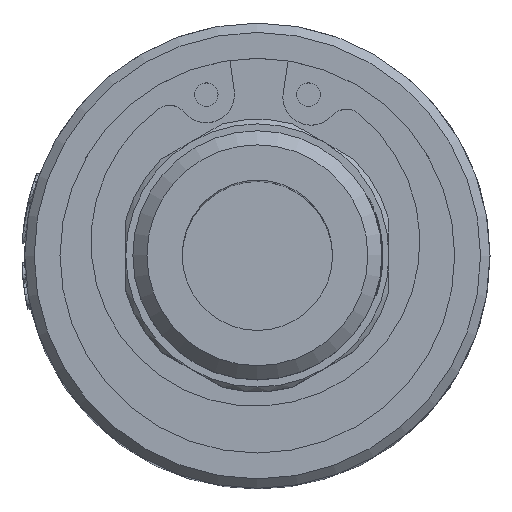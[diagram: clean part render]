
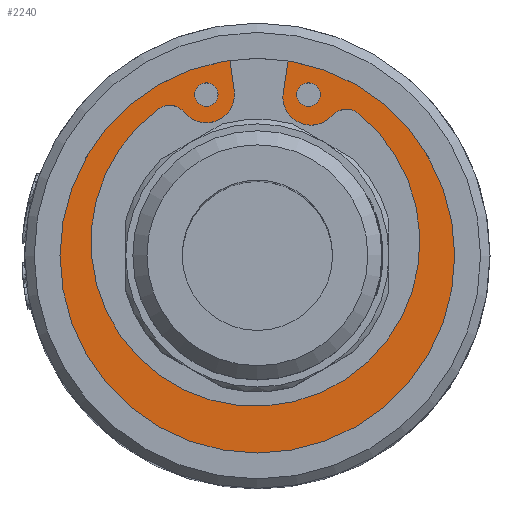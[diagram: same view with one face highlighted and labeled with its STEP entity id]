
A CAD part, top view. The second image highlights one B-rep face of the part: STEP entity #2240.
In plain terms, the highlighted planar face has unit normal (0, 0, 1).
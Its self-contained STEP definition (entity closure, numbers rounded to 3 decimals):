
#270=FACE_BOUND('',#6440,.T.);
#271=FACE_BOUND('',#6441,.T.);
#272=FACE_BOUND('',#6442,.T.);
#509=CIRCLE('',#22693,22.25);
#550=CIRCLE('',#22797,17.5);
#551=CIRCLE('',#22799,1.25);
#552=CIRCLE('',#22800,1.25);
#553=CIRCLE('',#22801,1.);
#554=CIRCLE('',#22802,3.);
#555=CIRCLE('',#22803,2.);
#556=CIRCLE('',#22804,2.);
#557=CIRCLE('',#22805,3.);
#558=CIRCLE('',#22806,1.);
#909=PLANE('',#22807);
#1262=LINE('',#44111,#4072);
#1263=LINE('',#44120,#4073);
#2240=ADVANCED_FACE('',(#270,#271,#272),#909,.T.);
#4072=VECTOR('',#24960,1.);
#4073=VECTOR('',#24969,1.);
#6440=EDGE_LOOP('',(#11550));
#6441=EDGE_LOOP('',(#11551));
#6442=EDGE_LOOP('',(#11552,#11553,#11554,#11555,#11556,#11557,#11558,#11559,
#11560,#11561));
#11550=ORIENTED_EDGE('',*,*,#18204,.F.);
#11551=ORIENTED_EDGE('',*,*,#18205,.F.);
#11552=ORIENTED_EDGE('',*,*,#18009,.F.);
#11553=ORIENTED_EDGE('',*,*,#18206,.T.);
#11554=ORIENTED_EDGE('',*,*,#18207,.T.);
#11555=ORIENTED_EDGE('',*,*,#18208,.T.);
#11556=ORIENTED_EDGE('',*,*,#18209,.T.);
#11557=ORIENTED_EDGE('',*,*,#18201,.F.);
#11558=ORIENTED_EDGE('',*,*,#18210,.T.);
#11559=ORIENTED_EDGE('',*,*,#18211,.T.);
#11560=ORIENTED_EDGE('',*,*,#18212,.F.);
#11561=ORIENTED_EDGE('',*,*,#18213,.T.);
#14985=VERTEX_POINT('',#42799);
#14986=VERTEX_POINT('',#42801);
#15113=VERTEX_POINT('',#44100);
#15114=VERTEX_POINT('',#44101);
#15115=VERTEX_POINT('',#44106);
#15116=VERTEX_POINT('',#44108);
#15117=VERTEX_POINT('',#44110);
#15118=VERTEX_POINT('',#44112);
#15119=VERTEX_POINT('',#44114);
#15120=VERTEX_POINT('',#44117);
#15121=VERTEX_POINT('',#44119);
#15122=VERTEX_POINT('',#44121);
#18009=EDGE_CURVE('',#14985,#14986,#509,.T.);
#18201=EDGE_CURVE('',#15113,#15114,#550,.T.);
#18204=EDGE_CURVE('',#15115,#15115,#551,.T.);
#18205=EDGE_CURVE('',#15116,#15116,#552,.T.);
#18206=EDGE_CURVE('',#14985,#15117,#553,.T.);
#18207=EDGE_CURVE('',#15117,#15118,#1262,.T.);
#18208=EDGE_CURVE('',#15118,#15119,#554,.T.);
#18209=EDGE_CURVE('',#15119,#15114,#555,.T.);
#18210=EDGE_CURVE('',#15113,#15120,#556,.T.);
#18211=EDGE_CURVE('',#15120,#15121,#557,.T.);
#18212=EDGE_CURVE('',#15122,#15121,#1263,.T.);
#18213=EDGE_CURVE('',#15122,#14986,#558,.T.);
#22693=AXIS2_PLACEMENT_3D('',#42800,#24680,#24681);
#22797=AXIS2_PLACEMENT_3D('',#44099,#24948,#24949);
#22799=AXIS2_PLACEMENT_3D('',#44105,#24954,#24955);
#22800=AXIS2_PLACEMENT_3D('',#44107,#24956,#24957);
#22801=AXIS2_PLACEMENT_3D('',#44109,#24958,#24959);
#22802=AXIS2_PLACEMENT_3D('',#44113,#24961,#24962);
#22803=AXIS2_PLACEMENT_3D('',#44115,#24963,#24964);
#22804=AXIS2_PLACEMENT_3D('',#44116,#24965,#24966);
#22805=AXIS2_PLACEMENT_3D('',#44118,#24967,#24968);
#22806=AXIS2_PLACEMENT_3D('',#44122,#24970,#24971);
#22807=AXIS2_PLACEMENT_3D('',#44123,#24972,#24973);
#24680=DIRECTION('',(0.,0.,-1.));
#24681=DIRECTION('',(1.,0.,0.));
#24948=DIRECTION('',(0.,0.,1.));
#24949=DIRECTION('',(1.,0.,0.));
#24954=DIRECTION('',(0.,0.,1.));
#24955=DIRECTION('',(1.,0.,0.));
#24956=DIRECTION('',(0.,0.,1.));
#24957=DIRECTION('',(1.,0.,0.));
#24958=DIRECTION('',(0.,0.,1.));
#24959=DIRECTION('',(1.,0.,0.));
#24960=DIRECTION('',(-0.156,-0.988,0.));
#24961=DIRECTION('',(0.,0.,1.));
#24962=DIRECTION('',(1.,0.,0.));
#24963=DIRECTION('',(0.,0.,-1.));
#24964=DIRECTION('',(1.,0.,0.));
#24965=DIRECTION('',(0.,0.,-1.));
#24966=DIRECTION('',(1.,0.,0.));
#24967=DIRECTION('',(0.,0.,1.));
#24968=DIRECTION('',(1.,0.,0.));
#24969=DIRECTION('',(0.139,-0.99,0.));
#24970=DIRECTION('',(0.,0.,1.));
#24971=DIRECTION('',(1.,0.,0.));
#24972=DIRECTION('',(0.,0.,1.));
#24973=DIRECTION('',(1.,0.,0.));
#42799=CARTESIAN_POINT('',(4.511,21.788,62.5));
#42800=CARTESIAN_POINT('',(0.,0.,62.5));
#42801=CARTESIAN_POINT('',(-4.13,21.863,62.5));
#44099=CARTESIAN_POINT('',(-0.209,1.485,62.5));
#44100=CARTESIAN_POINT('',(-10.519,15.626,62.5));
#44101=CARTESIAN_POINT('',(10.721,15.153,62.5));
#44105=CARTESIAN_POINT('',(-5.438,17.135,62.5));
#44106=CARTESIAN_POINT('',(-4.188,17.135,62.5));
#44107=CARTESIAN_POINT('',(5.438,17.135,62.5));
#44108=CARTESIAN_POINT('',(6.688,17.135,62.5));
#44109=CARTESIAN_POINT('',(4.308,20.809,62.5));
#44110=CARTESIAN_POINT('',(3.321,20.965,62.5));
#44111=CARTESIAN_POINT('',(0.,0.,62.5));
#44112=CARTESIAN_POINT('',(2.749,17.356,62.5));
#44113=CARTESIAN_POINT('',(5.712,16.887,62.5));
#44114=CARTESIAN_POINT('',(7.968,14.909,62.5));
#44115=CARTESIAN_POINT('',(9.472,13.591,62.5));
#44116=CARTESIAN_POINT('',(-9.341,14.01,62.5));
#44117=CARTESIAN_POINT('',(-7.779,15.26,62.5));
#44118=CARTESIAN_POINT('',(-5.438,17.135,62.5));
#44119=CARTESIAN_POINT('',(-2.467,17.552,62.5));
#44120=CARTESIAN_POINT('',(0.,0.,62.5));
#44121=CARTESIAN_POINT('',(-2.954,21.02,62.5));
#44122=CARTESIAN_POINT('',(-3.944,20.881,62.5));
#44123=CARTESIAN_POINT('',(0.,0.,62.5));
